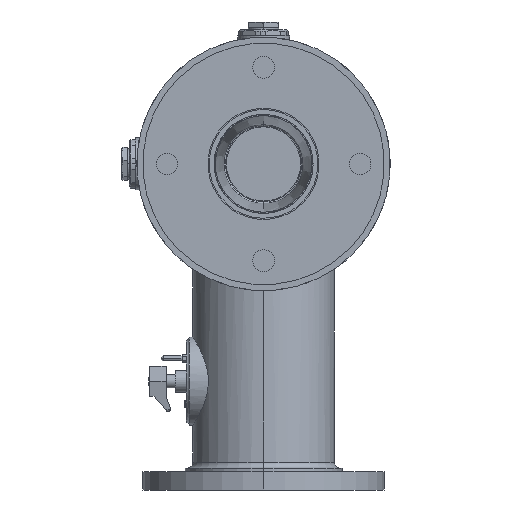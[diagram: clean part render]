
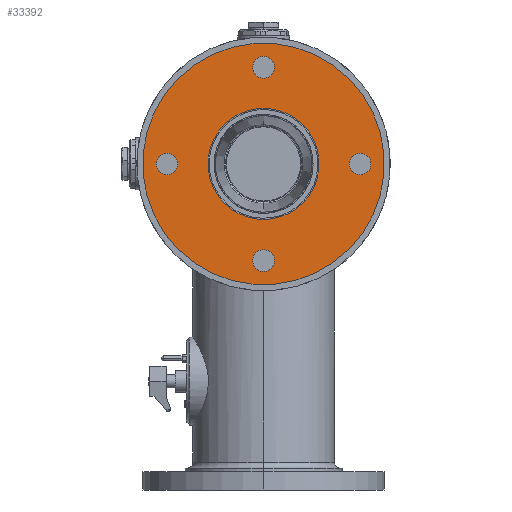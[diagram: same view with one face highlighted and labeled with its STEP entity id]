
A CAD part, left-side view. The second image highlights one B-rep face of the part: STEP entity #33392.
In plain terms, the highlighted planar face has unit normal (-1, 0, 0) as drawn and (1, 0, 0) by its records, which use the part's own axes.
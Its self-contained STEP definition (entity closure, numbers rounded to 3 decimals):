
#909 = CIRCLE ( 'NONE', #9598, 9. ) ;
#976 = AXIS2_PLACEMENT_3D ( 'NONE', #14178, #51095, #6690 ) ;
#1364 = AXIS2_PLACEMENT_3D ( 'NONE', #15378, #8236, #4309 ) ;
#2377 = DIRECTION ( 'NONE',  ( 1., 0., 0. ) ) ;
#3517 = DIRECTION ( 'NONE',  ( 1., 0., 0. ) ) ;
#3735 = ORIENTED_EDGE ( 'NONE', *, *, #24024, .F. ) ;
#4309 = DIRECTION ( 'NONE',  ( 0., 0., 1. ) ) ;
#4809 = DIRECTION ( 'NONE',  ( 0., 0., 1. ) ) ;
#4935 = AXIS2_PLACEMENT_3D ( 'NONE', #47100, #15226, #19282 ) ;
#5032 = CARTESIAN_POINT ( 'NONE',  ( 89., 0., -46. ) ) ;
#5065 = AXIS2_PLACEMENT_3D ( 'NONE', #51014, #2377, #18359 ) ;
#5748 = VERTEX_POINT ( 'NONE', #21235 ) ;
#6690 = DIRECTION ( 'NONE',  ( 0., 0., 1. ) ) ;
#6736 = VERTEX_POINT ( 'NONE', #25608 ) ;
#7096 = EDGE_CURVE ( 'NONE', #5748, #9791, #52784, .T. ) ;
#7469 = EDGE_LOOP ( 'NONE', ( #20826, #10047 ) ) ;
#7577 = DIRECTION ( 'NONE',  ( 0., 0., 1. ) ) ;
#8185 = CARTESIAN_POINT ( 'NONE',  ( 89., 0., -100. ) ) ;
#8236 = DIRECTION ( 'NONE',  ( 1., 0., 0. ) ) ;
#8496 = CARTESIAN_POINT ( 'NONE',  ( 89., 56.569, -56.569 ) ) ;
#8686 = EDGE_LOOP ( 'NONE', ( #10538, #8939 ) ) ;
#8939 = ORIENTED_EDGE ( 'NONE', *, *, #45903, .F. ) ;
#9598 = AXIS2_PLACEMENT_3D ( 'NONE', #22174, #42039, #38276 ) ;
#9791 = VERTEX_POINT ( 'NONE', #8185 ) ;
#10047 = ORIENTED_EDGE ( 'NONE', *, *, #48926, .T. ) ;
#10533 = VERTEX_POINT ( 'NONE', #32321 ) ;
#10538 = ORIENTED_EDGE ( 'NONE', *, *, #12809, .F. ) ;
#10690 = DIRECTION ( 'NONE',  ( 0., 0., 1. ) ) ;
#11217 = AXIS2_PLACEMENT_3D ( 'NONE', #34614, #51197, #10690 ) ;
#11279 = EDGE_LOOP ( 'NONE', ( #16652, #49300 ) ) ;
#11309 = ORIENTED_EDGE ( 'NONE', *, *, #18689, .F. ) ;
#12571 = CARTESIAN_POINT ( 'NONE',  ( 89., 56.569, -65.569 ) ) ;
#12809 = EDGE_CURVE ( 'NONE', #15258, #40841, #46625, .T. ) ;
#13998 = EDGE_CURVE ( 'NONE', #22035, #6736, #51634, .T. ) ;
#14013 = DIRECTION ( 'NONE',  ( 0., 0., 1. ) ) ;
#14178 = CARTESIAN_POINT ( 'NONE',  ( 89., 100., 0. ) ) ;
#14716 = CARTESIAN_POINT ( 'NONE',  ( 89., 0., 0. ) ) ;
#15226 = DIRECTION ( 'NONE',  ( -1., 0., 0. ) ) ;
#15258 = VERTEX_POINT ( 'NONE', #28974 ) ;
#15378 = CARTESIAN_POINT ( 'NONE',  ( 89., -56.569, -56.569 ) ) ;
#16652 = ORIENTED_EDGE ( 'NONE', *, *, #22755, .F. ) ;
#17287 = EDGE_CURVE ( 'NONE', #31704, #39086, #37926, .T. ) ;
#17772 = FACE_BOUND ( 'NONE', #38783, .T. ) ;
#18011 = AXIS2_PLACEMENT_3D ( 'NONE', #39887, #3517, #44310 ) ;
#18024 = AXIS2_PLACEMENT_3D ( 'NONE', #40988, #36515, #45058 ) ;
#18359 = DIRECTION ( 'NONE',  ( 0., 0., -1. ) ) ;
#18644 = DIRECTION ( 'NONE',  ( 1., 0., 0. ) ) ;
#18645 = DIRECTION ( 'NONE',  ( 1., 0., 0. ) ) ;
#18689 = EDGE_CURVE ( 'NONE', #39086, #31704, #24016, .T. ) ;
#19068 = FACE_BOUND ( 'NONE', #32138, .T. ) ;
#19282 = DIRECTION ( 'NONE',  ( 0., 0., 1. ) ) ;
#20511 = CARTESIAN_POINT ( 'NONE',  ( 89., 0., 46. ) ) ;
#20826 = ORIENTED_EDGE ( 'NONE', *, *, #23795, .T. ) ;
#20969 = ORIENTED_EDGE ( 'NONE', *, *, #43009, .F. ) ;
#21235 = CARTESIAN_POINT ( 'NONE',  ( 89., 0., 100. ) ) ;
#21644 = DIRECTION ( 'NONE',  ( 0., 0., -1. ) ) ;
#22035 = VERTEX_POINT ( 'NONE', #41600 ) ;
#22174 = CARTESIAN_POINT ( 'NONE',  ( 89., 56.569, 56.569 ) ) ;
#22747 = DIRECTION ( 'NONE',  ( 0., 0., -1. ) ) ;
#22755 = EDGE_CURVE ( 'NONE', #6736, #22035, #52347, .T. ) ;
#23795 = EDGE_CURVE ( 'NONE', #52062, #52124, #24220, .T. ) ;
#24016 = CIRCLE ( 'NONE', #42877, 9. ) ;
#24024 = EDGE_CURVE ( 'NONE', #10533, #36194, #50963, .T. ) ;
#24220 = CIRCLE ( 'NONE', #11217, 46. ) ;
#24278 = ORIENTED_EDGE ( 'NONE', *, *, #50345, .F. ) ;
#24877 = AXIS2_PLACEMENT_3D ( 'NONE', #29039, #50070, #4809 ) ;
#25491 = FACE_OUTER_BOUND ( 'NONE', #31056, .T. ) ;
#25608 = CARTESIAN_POINT ( 'NONE',  ( 89., -56.569, 47.569 ) ) ;
#27004 = PLANE ( 'NONE',  #976 ) ;
#27106 = CIRCLE ( 'NONE', #4935, 46. ) ;
#28057 = DIRECTION ( 'NONE',  ( -1., 0., 0. ) ) ;
#28099 = AXIS2_PLACEMENT_3D ( 'NONE', #8496, #33816, #21644 ) ;
#28974 = CARTESIAN_POINT ( 'NONE',  ( 89., 56.569, 47.569 ) ) ;
#29039 = CARTESIAN_POINT ( 'NONE',  ( 89., 0., 0. ) ) ;
#31056 = EDGE_LOOP ( 'NONE', ( #35634, #24278 ) ) ;
#31704 = VERTEX_POINT ( 'NONE', #51398 ) ;
#32138 = EDGE_LOOP ( 'NONE', ( #11309, #37544 ) ) ;
#32321 = CARTESIAN_POINT ( 'NONE',  ( 89., -56.569, -65.569 ) ) ;
#33392 = ADVANCED_FACE ( 'NONE', ( #36330, #17772, #40792, #19068, #25491, #38886 ), #27004, .F. ) ;
#33816 = DIRECTION ( 'NONE',  ( 1., 0., 0. ) ) ;
#34175 = CARTESIAN_POINT ( 'NONE',  ( 89., 56.569, 65.569 ) ) ;
#34203 = CARTESIAN_POINT ( 'NONE',  ( 89., 56.569, 56.569 ) ) ;
#34614 = CARTESIAN_POINT ( 'NONE',  ( 89., 0., 0. ) ) ;
#35634 = ORIENTED_EDGE ( 'NONE', *, *, #7096, .F. ) ;
#35800 = CARTESIAN_POINT ( 'NONE',  ( 89., 56.569, -56.569 ) ) ;
#36194 = VERTEX_POINT ( 'NONE', #48083 ) ;
#36330 = FACE_BOUND ( 'NONE', #11279, .T. ) ;
#36515 = DIRECTION ( 'NONE',  ( 1., 0., 0. ) ) ;
#36843 = CIRCLE ( 'NONE', #18024, 9. ) ;
#37544 = ORIENTED_EDGE ( 'NONE', *, *, #17287, .F. ) ;
#37926 = CIRCLE ( 'NONE', #28099, 9. ) ;
#38276 = DIRECTION ( 'NONE',  ( 0., 0., 1. ) ) ;
#38783 = EDGE_LOOP ( 'NONE', ( #3735, #20969 ) ) ;
#38886 = FACE_BOUND ( 'NONE', #7469, .T. ) ;
#39086 = VERTEX_POINT ( 'NONE', #12571 ) ;
#39103 = CIRCLE ( 'NONE', #24877, 100. ) ;
#39887 = CARTESIAN_POINT ( 'NONE',  ( 89., -56.569, 56.569 ) ) ;
#40792 = FACE_BOUND ( 'NONE', #8686, .T. ) ;
#40841 = VERTEX_POINT ( 'NONE', #34175 ) ;
#40988 = CARTESIAN_POINT ( 'NONE',  ( 89., -56.569, -56.569 ) ) ;
#41600 = CARTESIAN_POINT ( 'NONE',  ( 89., -56.569, 65.569 ) ) ;
#42039 = DIRECTION ( 'NONE',  ( 1., 0., 0. ) ) ;
#42720 = AXIS2_PLACEMENT_3D ( 'NONE', #14716, #28057, #7577 ) ;
#42877 = AXIS2_PLACEMENT_3D ( 'NONE', #35800, #18644, #22747 ) ;
#43009 = EDGE_CURVE ( 'NONE', #36194, #10533, #36843, .T. ) ;
#44310 = DIRECTION ( 'NONE',  ( 0., 0., -1. ) ) ;
#45058 = DIRECTION ( 'NONE',  ( 0., 0., 1. ) ) ;
#45903 = EDGE_CURVE ( 'NONE', #40841, #15258, #909, .T. ) ;
#46625 = CIRCLE ( 'NONE', #50091, 9. ) ;
#47100 = CARTESIAN_POINT ( 'NONE',  ( 89., 0., 0. ) ) ;
#48083 = CARTESIAN_POINT ( 'NONE',  ( 89., -56.569, -47.569 ) ) ;
#48926 = EDGE_CURVE ( 'NONE', #52124, #52062, #27106, .T. ) ;
#49300 = ORIENTED_EDGE ( 'NONE', *, *, #13998, .F. ) ;
#50070 = DIRECTION ( 'NONE',  ( -1., 0., 0. ) ) ;
#50091 = AXIS2_PLACEMENT_3D ( 'NONE', #34203, #18645, #14013 ) ;
#50345 = EDGE_CURVE ( 'NONE', #9791, #5748, #39103, .T. ) ;
#50963 = CIRCLE ( 'NONE', #1364, 9. ) ;
#51014 = CARTESIAN_POINT ( 'NONE',  ( 89., -56.569, 56.569 ) ) ;
#51095 = DIRECTION ( 'NONE',  ( -1., 0., 0. ) ) ;
#51197 = DIRECTION ( 'NONE',  ( -1., 0., 0. ) ) ;
#51398 = CARTESIAN_POINT ( 'NONE',  ( 89., 56.569, -47.569 ) ) ;
#51634 = CIRCLE ( 'NONE', #5065, 9. ) ;
#52062 = VERTEX_POINT ( 'NONE', #20511 ) ;
#52124 = VERTEX_POINT ( 'NONE', #5032 ) ;
#52347 = CIRCLE ( 'NONE', #18011, 9. ) ;
#52784 = CIRCLE ( 'NONE', #42720, 100. ) ;
